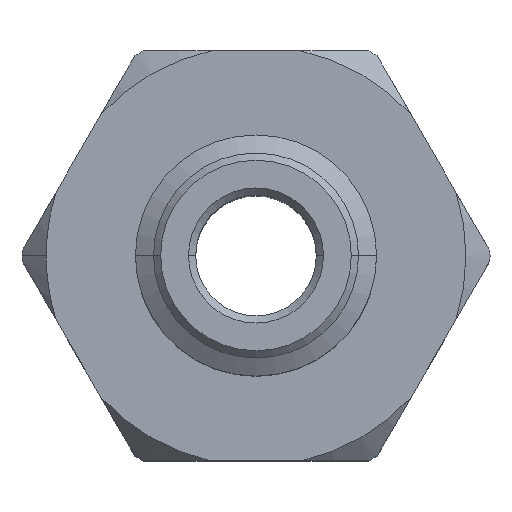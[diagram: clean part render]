
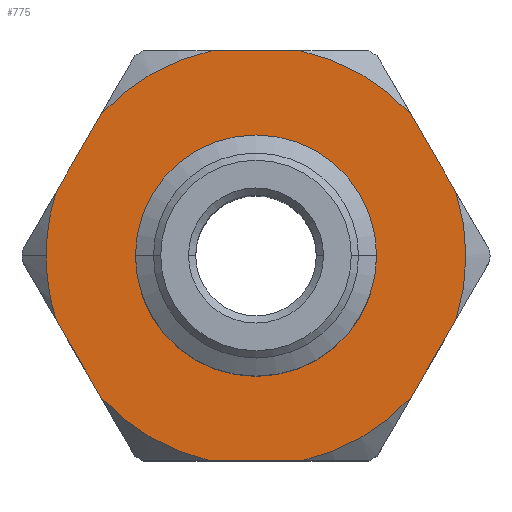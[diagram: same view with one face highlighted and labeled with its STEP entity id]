
A CAD part, top view. The second image highlights one B-rep face of the part: STEP entity #775.
In plain terms, the highlighted planar face has unit normal (0, 0, 1).
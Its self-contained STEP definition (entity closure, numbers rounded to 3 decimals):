
#35 = CIRCLE ( 'NONE', #416, 4.25 ) ;
#51 = CARTESIAN_POINT ( 'NONE',  ( -4.25, 0., 0. ) ) ;
#111 = DIRECTION ( 'NONE',  ( 0., 0., 1. ) ) ;
#124 = CARTESIAN_POINT ( 'NONE',  ( 0., 0., 0. ) ) ;
#126 = VERTEX_POINT ( 'NONE', #249 ) ;
#128 = CARTESIAN_POINT ( 'NONE',  ( -8.7, 0., 0. ) ) ;
#143 = ORIENTED_EDGE ( 'NONE', *, *, #2038, .T. ) ;
#159 = CARTESIAN_POINT ( 'NONE',  ( 0., 0., 0. ) ) ;
#249 = CARTESIAN_POINT ( 'NONE',  ( -8.289, -2.644, 0. ) ) ;
#256 = CARTESIAN_POINT ( 'NONE',  ( 0., 0., 0. ) ) ;
#308 = CARTESIAN_POINT ( 'NONE',  ( 0., 0., 0. ) ) ;
#341 = LINE ( 'NONE', #2661, #2951 ) ;
#364 = VERTEX_POINT ( 'NONE', #1380 ) ;
#384 = VECTOR ( 'NONE', #2561, 1000. ) ;
#400 = CARTESIAN_POINT ( 'NONE',  ( -4.954, -8.419, 0. ) ) ;
#416 = AXIS2_PLACEMENT_3D ( 'NONE', #308, #2746, #1925 ) ;
#417 = LINE ( 'NONE', #400, #446 ) ;
#418 = AXIS2_PLACEMENT_3D ( 'NONE', #619, #1394, #1648 ) ;
#433 = CIRCLE ( 'NONE', #1722, 8.7 ) ;
#446 = VECTOR ( 'NONE', #1447, 1000. ) ;
#518 = EDGE_CURVE ( 'NONE', #2450, #2708, #35, .T. ) ;
#542 = AXIS2_PLACEMENT_3D ( 'NONE', #1933, #3012, #1915 ) ;
#578 = ORIENTED_EDGE ( 'NONE', *, *, #2170, .T. ) ;
#612 = VERTEX_POINT ( 'NONE', #2931 ) ;
#619 = CARTESIAN_POINT ( 'NONE',  ( 0., 0., 0. ) ) ;
#626 = VECTOR ( 'NONE', #2065, 1000. ) ;
#633 = LINE ( 'NONE', #909, #657 ) ;
#649 = LINE ( 'NONE', #1143, #384 ) ;
#650 = CARTESIAN_POINT ( 'NONE',  ( -1.855, -8.5, 0. ) ) ;
#656 = CARTESIAN_POINT ( 'NONE',  ( 8.289, 2.644, 0. ) ) ;
#657 = VECTOR ( 'NONE', #2543, 1000. ) ;
#704 = CARTESIAN_POINT ( 'NONE',  ( 0., 0., 0. ) ) ;
#775 = ADVANCED_FACE ( 'NONE', ( #3244, #2495 ), #1875, .F. ) ;
#801 = DIRECTION ( 'NONE',  ( -0.5, -0.866, 0. ) ) ;
#848 = AXIS2_PLACEMENT_3D ( 'NONE', #256, #2382, #1038 ) ;
#861 = ORIENTED_EDGE ( 'NONE', *, *, #1878, .T. ) ;
#869 = CARTESIAN_POINT ( 'NONE',  ( 0., 0., 0. ) ) ;
#882 = CARTESIAN_POINT ( 'NONE',  ( -9.768, 0.081, 0. ) ) ;
#904 = DIRECTION ( 'NONE',  ( -1., 0., 0. ) ) ;
#909 = CARTESIAN_POINT ( 'NONE',  ( 4.814, -8.5, 0. ) ) ;
#926 = ORIENTED_EDGE ( 'NONE', *, *, #1657, .T. ) ;
#927 = CARTESIAN_POINT ( 'NONE',  ( 0., 0., 0. ) ) ;
#977 = DIRECTION ( 'NONE',  ( -1., 0., 0. ) ) ;
#1038 = DIRECTION ( 'NONE',  ( -1., 0., 0. ) ) ;
#1068 = ORIENTED_EDGE ( 'NONE', *, *, #3132, .F. ) ;
#1143 = CARTESIAN_POINT ( 'NONE',  ( 4.954, 8.419, 0. ) ) ;
#1153 = ORIENTED_EDGE ( 'NONE', *, *, #1932, .F. ) ;
#1166 = AXIS2_PLACEMENT_3D ( 'NONE', #124, #2243, #904 ) ;
#1197 = CARTESIAN_POINT ( 'NONE',  ( 0., 0., 0. ) ) ;
#1223 = ORIENTED_EDGE ( 'NONE', *, *, #2938, .F. ) ;
#1227 = AXIS2_PLACEMENT_3D ( 'NONE', #869, #3318, #3269 ) ;
#1238 = EDGE_CURVE ( 'NONE', #364, #1584, #341, .T. ) ;
#1245 = VERTEX_POINT ( 'NONE', #2398 ) ;
#1267 = EDGE_CURVE ( 'NONE', #612, #1763, #633, .T. ) ;
#1271 = EDGE_CURVE ( 'NONE', #2811, #3201, #649, .T. ) ;
#1276 = CARTESIAN_POINT ( 'NONE',  ( 4.25, 0., 0. ) ) ;
#1334 = ORIENTED_EDGE ( 'NONE', *, *, #1364, .T. ) ;
#1362 = LINE ( 'NONE', #882, #3068 ) ;
#1364 = EDGE_CURVE ( 'NONE', #364, #3201, #433, .T. ) ;
#1380 = CARTESIAN_POINT ( 'NONE',  ( 8.289, -2.644, 0. ) ) ;
#1394 = DIRECTION ( 'NONE',  ( 0., 0., -1. ) ) ;
#1411 = DIRECTION ( 'NONE',  ( -1., 0., 0. ) ) ;
#1447 = DIRECTION ( 'NONE',  ( -0.5, 0.866, 0. ) ) ;
#1507 = AXIS2_PLACEMENT_3D ( 'NONE', #1197, #2800, #1411 ) ;
#1526 = VERTEX_POINT ( 'NONE', #1627 ) ;
#1563 = CARTESIAN_POINT ( 'NONE',  ( -1.855, 8.5, 0. ) ) ;
#1567 = ORIENTED_EDGE ( 'NONE', *, *, #518, .T. ) ;
#1584 = VERTEX_POINT ( 'NONE', #2714 ) ;
#1612 = VERTEX_POINT ( 'NONE', #128 ) ;
#1627 = CARTESIAN_POINT ( 'NONE',  ( 1.855, 8.5, 0. ) ) ;
#1630 = CIRCLE ( 'NONE', #2077, 8.7 ) ;
#1648 = DIRECTION ( 'NONE',  ( -1., 0., 0. ) ) ;
#1649 = ORIENTED_EDGE ( 'NONE', *, *, #1238, .F. ) ;
#1657 = EDGE_CURVE ( 'NONE', #2811, #1526, #2074, .T. ) ;
#1705 = ORIENTED_EDGE ( 'NONE', *, *, #1267, .F. ) ;
#1722 = AXIS2_PLACEMENT_3D ( 'NONE', #927, #2246, #2291 ) ;
#1739 = EDGE_CURVE ( 'NONE', #3267, #1763, #2805, .T. ) ;
#1740 = CARTESIAN_POINT ( 'NONE',  ( -6.434, -5.856, 0. ) ) ;
#1747 = EDGE_LOOP ( 'NONE', ( #578, #1567 ) ) ;
#1763 = VERTEX_POINT ( 'NONE', #650 ) ;
#1800 = VERTEX_POINT ( 'NONE', #2593 ) ;
#1838 = DIRECTION ( 'NONE',  ( 0., 0., 1. ) ) ;
#1875 = PLANE ( 'NONE',  #418 ) ;
#1878 = EDGE_CURVE ( 'NONE', #2273, #1245, #1630, .T. ) ;
#1915 = DIRECTION ( 'NONE',  ( -1., 0., 0. ) ) ;
#1925 = DIRECTION ( 'NONE',  ( -1., 0., 0. ) ) ;
#1932 = EDGE_CURVE ( 'NONE', #2273, #1526, #2834, .T. ) ;
#1933 = CARTESIAN_POINT ( 'NONE',  ( 0., 0., 0. ) ) ;
#1955 = DIRECTION ( 'NONE',  ( 0.5, 0.866, 0. ) ) ;
#2038 = EDGE_CURVE ( 'NONE', #1612, #126, #3140, .T. ) ;
#2065 = DIRECTION ( 'NONE',  ( 1., 0., 0. ) ) ;
#2073 = CIRCLE ( 'NONE', #1166, 4.25 ) ;
#2074 = CIRCLE ( 'NONE', #1507, 8.7 ) ;
#2077 = AXIS2_PLACEMENT_3D ( 'NONE', #704, #1838, #977 ) ;
#2111 = ORIENTED_EDGE ( 'NONE', *, *, #1739, .T. ) ;
#2135 = EDGE_CURVE ( 'NONE', #1800, #1612, #2249, .T. ) ;
#2170 = EDGE_CURVE ( 'NONE', #2708, #2450, #2073, .T. ) ;
#2194 = AXIS2_PLACEMENT_3D ( 'NONE', #159, #111, #2279 ) ;
#2221 = ORIENTED_EDGE ( 'NONE', *, *, #2969, .T. ) ;
#2243 = DIRECTION ( 'NONE',  ( 0., 0., -1. ) ) ;
#2246 = DIRECTION ( 'NONE',  ( 0., 0., 1. ) ) ;
#2249 = CIRCLE ( 'NONE', #1227, 8.7 ) ;
#2273 = VERTEX_POINT ( 'NONE', #1563 ) ;
#2279 = DIRECTION ( 'NONE',  ( -1., 0., 0. ) ) ;
#2291 = DIRECTION ( 'NONE',  ( -1., 0., 0. ) ) ;
#2382 = DIRECTION ( 'NONE',  ( 0., 0., 1. ) ) ;
#2398 = CARTESIAN_POINT ( 'NONE',  ( -6.434, 5.856, 0. ) ) ;
#2400 = ORIENTED_EDGE ( 'NONE', *, *, #2135, .T. ) ;
#2448 = CIRCLE ( 'NONE', #542, 8.7 ) ;
#2450 = VERTEX_POINT ( 'NONE', #1276 ) ;
#2495 = FACE_BOUND ( 'NONE', #1747, .T. ) ;
#2543 = DIRECTION ( 'NONE',  ( -1., 0., 0. ) ) ;
#2561 = DIRECTION ( 'NONE',  ( 0.5, -0.866, 0. ) ) ;
#2593 = CARTESIAN_POINT ( 'NONE',  ( -8.289, 2.644, 0. ) ) ;
#2661 = CARTESIAN_POINT ( 'NONE',  ( 9.768, -0.081, 0. ) ) ;
#2673 = ORIENTED_EDGE ( 'NONE', *, *, #1271, .F. ) ;
#2708 = VERTEX_POINT ( 'NONE', #51 ) ;
#2714 = CARTESIAN_POINT ( 'NONE',  ( 6.434, -5.856, 0. ) ) ;
#2746 = DIRECTION ( 'NONE',  ( 0., 0., -1. ) ) ;
#2800 = DIRECTION ( 'NONE',  ( 0., 0., 1. ) ) ;
#2805 = CIRCLE ( 'NONE', #2194, 8.7 ) ;
#2811 = VERTEX_POINT ( 'NONE', #3077 ) ;
#2834 = LINE ( 'NONE', #2853, #626 ) ;
#2853 = CARTESIAN_POINT ( 'NONE',  ( -4.814, 8.5, 0. ) ) ;
#2931 = CARTESIAN_POINT ( 'NONE',  ( 1.855, -8.5, 0. ) ) ;
#2938 = EDGE_CURVE ( 'NONE', #1800, #1245, #1362, .T. ) ;
#2939 = EDGE_LOOP ( 'NONE', ( #1334, #2673, #926, #1153, #861, #1223, #2400, #143, #1068, #2111, #1705, #2221, #1649 ) ) ;
#2951 = VECTOR ( 'NONE', #801, 1000. ) ;
#2969 = EDGE_CURVE ( 'NONE', #612, #1584, #2448, .T. ) ;
#3012 = DIRECTION ( 'NONE',  ( 0., 0., 1. ) ) ;
#3068 = VECTOR ( 'NONE', #1955, 1000. ) ;
#3077 = CARTESIAN_POINT ( 'NONE',  ( 6.434, 5.856, 0. ) ) ;
#3132 = EDGE_CURVE ( 'NONE', #3267, #126, #417, .T. ) ;
#3140 = CIRCLE ( 'NONE', #848, 8.7 ) ;
#3201 = VERTEX_POINT ( 'NONE', #656 ) ;
#3244 = FACE_OUTER_BOUND ( 'NONE', #2939, .T. ) ;
#3267 = VERTEX_POINT ( 'NONE', #1740 ) ;
#3269 = DIRECTION ( 'NONE',  ( -1., 0., 0. ) ) ;
#3318 = DIRECTION ( 'NONE',  ( 0., 0., 1. ) ) ;
